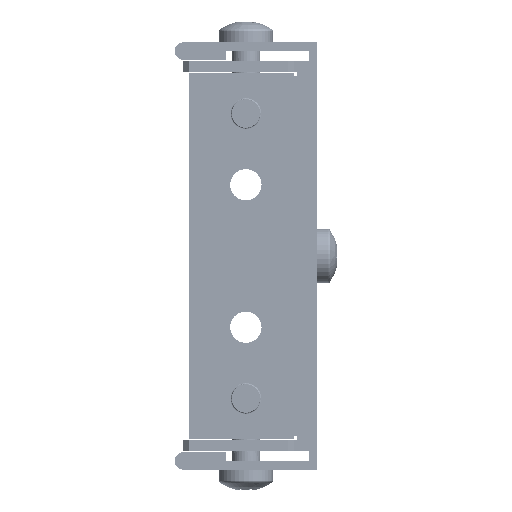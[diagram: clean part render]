
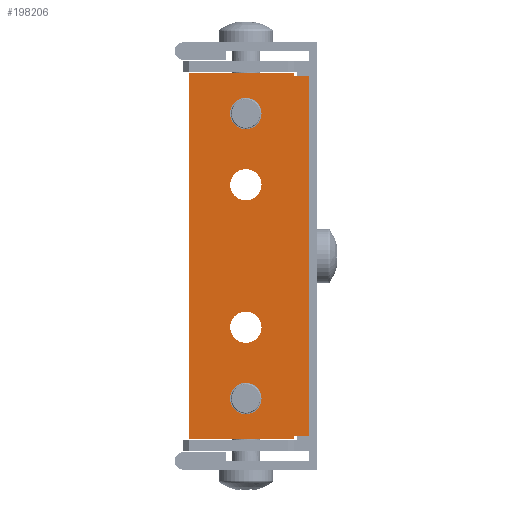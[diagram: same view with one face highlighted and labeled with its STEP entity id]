
A CAD part, front view. The second image highlights one B-rep face of the part: STEP entity #198206.
In plain terms, the highlighted planar face has unit normal (0, -1, 0).
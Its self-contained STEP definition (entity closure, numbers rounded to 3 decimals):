
#197672 = VERTEX_POINT('',#197673);
#197673 = CARTESIAN_POINT('',(-351.5,-650.,-5.85));
#197679 = EDGE_CURVE('',#197680,#197672,#197682,.T.);
#197680 = VERTEX_POINT('',#197681);
#197681 = CARTESIAN_POINT('',(-351.5,-650.,-69.15));
#197682 = LINE('',#197683,#197684);
#197683 = CARTESIAN_POINT('',(-351.5,-650.,-37.5));
#197684 = VECTOR('',#197685,1.);
#197685 = DIRECTION('',(0.,0.,1.));
#198188 = VERTEX_POINT('',#198189);
#198189 = CARTESIAN_POINT('',(-354.1,-650.,-5.85));
#198195 = EDGE_CURVE('',#198188,#197672,#198196,.T.);
#198196 = LINE('',#198197,#198198);
#198197 = CARTESIAN_POINT('',(-351.5,-650.,-5.85));
#198198 = VECTOR('',#198199,1.);
#198199 = DIRECTION('',(1.,0.,0.));
#198206 = ADVANCED_FACE('',(#198207,#198227,#198247,#198267,#198287),
  #198337,.T.);
#198207 = FACE_BOUND('',#198208,.T.);
#198208 = EDGE_LOOP('',(#198209,#198220));
#198209 = ORIENTED_EDGE('',*,*,#198210,.T.);
#198210 = EDGE_CURVE('',#198211,#198213,#198215,.T.);
#198211 = VERTEX_POINT('',#198212);
#198212 = CARTESIAN_POINT('',(-359.75,-650.,-25.));
#198213 = VERTEX_POINT('',#198214);
#198214 = CARTESIAN_POINT('',(-365.25,-650.,-25.));
#198215 = CIRCLE('',#198216,2.75);
#198216 = AXIS2_PLACEMENT_3D('',#198217,#198218,#198219);
#198217 = CARTESIAN_POINT('',(-362.5,-650.,-25.));
#198218 = DIRECTION('',(0.,1.,0.));
#198219 = DIRECTION('',(1.,0.,0.));
#198220 = ORIENTED_EDGE('',*,*,#198221,.T.);
#198221 = EDGE_CURVE('',#198213,#198211,#198222,.T.);
#198222 = CIRCLE('',#198223,2.75);
#198223 = AXIS2_PLACEMENT_3D('',#198224,#198225,#198226);
#198224 = CARTESIAN_POINT('',(-362.5,-650.,-25.));
#198225 = DIRECTION('',(0.,1.,0.));
#198226 = DIRECTION('',(1.,0.,0.));
#198227 = FACE_BOUND('',#198228,.T.);
#198228 = EDGE_LOOP('',(#198229,#198240));
#198229 = ORIENTED_EDGE('',*,*,#198230,.T.);
#198230 = EDGE_CURVE('',#198231,#198233,#198235,.T.);
#198231 = VERTEX_POINT('',#198232);
#198232 = CARTESIAN_POINT('',(-359.75,-650.,-62.5));
#198233 = VERTEX_POINT('',#198234);
#198234 = CARTESIAN_POINT('',(-365.25,-650.,-62.5));
#198235 = CIRCLE('',#198236,2.75);
#198236 = AXIS2_PLACEMENT_3D('',#198237,#198238,#198239);
#198237 = CARTESIAN_POINT('',(-362.5,-650.,-62.5));
#198238 = DIRECTION('',(0.,1.,0.));
#198239 = DIRECTION('',(-1.,0.,0.));
#198240 = ORIENTED_EDGE('',*,*,#198241,.T.);
#198241 = EDGE_CURVE('',#198233,#198231,#198242,.T.);
#198242 = CIRCLE('',#198243,2.75);
#198243 = AXIS2_PLACEMENT_3D('',#198244,#198245,#198246);
#198244 = CARTESIAN_POINT('',(-362.5,-650.,-62.5));
#198245 = DIRECTION('',(0.,1.,0.));
#198246 = DIRECTION('',(-1.,0.,0.));
#198247 = FACE_BOUND('',#198248,.T.);
#198248 = EDGE_LOOP('',(#198249,#198260));
#198249 = ORIENTED_EDGE('',*,*,#198250,.T.);
#198250 = EDGE_CURVE('',#198251,#198253,#198255,.T.);
#198251 = VERTEX_POINT('',#198252);
#198252 = CARTESIAN_POINT('',(-359.75,-650.,-50.));
#198253 = VERTEX_POINT('',#198254);
#198254 = CARTESIAN_POINT('',(-365.25,-650.,-50.));
#198255 = CIRCLE('',#198256,2.75);
#198256 = AXIS2_PLACEMENT_3D('',#198257,#198258,#198259);
#198257 = CARTESIAN_POINT('',(-362.5,-650.,-50.));
#198258 = DIRECTION('',(0.,1.,0.));
#198259 = DIRECTION('',(-1.,0.,0.));
#198260 = ORIENTED_EDGE('',*,*,#198261,.T.);
#198261 = EDGE_CURVE('',#198253,#198251,#198262,.T.);
#198262 = CIRCLE('',#198263,2.75);
#198263 = AXIS2_PLACEMENT_3D('',#198264,#198265,#198266);
#198264 = CARTESIAN_POINT('',(-362.5,-650.,-50.));
#198265 = DIRECTION('',(0.,1.,0.));
#198266 = DIRECTION('',(-1.,0.,0.));
#198267 = FACE_BOUND('',#198268,.T.);
#198268 = EDGE_LOOP('',(#198269,#198280));
#198269 = ORIENTED_EDGE('',*,*,#198270,.T.);
#198270 = EDGE_CURVE('',#198271,#198273,#198275,.T.);
#198271 = VERTEX_POINT('',#198272);
#198272 = CARTESIAN_POINT('',(-359.75,-650.,-12.5));
#198273 = VERTEX_POINT('',#198274);
#198274 = CARTESIAN_POINT('',(-365.25,-650.,-12.5));
#198275 = CIRCLE('',#198276,2.75);
#198276 = AXIS2_PLACEMENT_3D('',#198277,#198278,#198279);
#198277 = CARTESIAN_POINT('',(-362.5,-650.,-12.5));
#198278 = DIRECTION('',(0.,1.,0.));
#198279 = DIRECTION('',(1.,0.,0.));
#198280 = ORIENTED_EDGE('',*,*,#198281,.T.);
#198281 = EDGE_CURVE('',#198273,#198271,#198282,.T.);
#198282 = CIRCLE('',#198283,2.75);
#198283 = AXIS2_PLACEMENT_3D('',#198284,#198285,#198286);
#198284 = CARTESIAN_POINT('',(-362.5,-650.,-12.5));
#198285 = DIRECTION('',(0.,1.,0.));
#198286 = DIRECTION('',(1.,0.,0.));
#198287 = FACE_BOUND('',#198288,.T.);
#198288 = EDGE_LOOP('',(#198289,#198299,#198307,#198315,#198321,#198322,
    #198323,#198331));
#198289 = ORIENTED_EDGE('',*,*,#198290,.F.);
#198290 = EDGE_CURVE('',#198291,#198293,#198295,.T.);
#198291 = VERTEX_POINT('',#198292);
#198292 = CARTESIAN_POINT('',(-372.5,-650.,-69.65));
#198293 = VERTEX_POINT('',#198294);
#198294 = CARTESIAN_POINT('',(-372.5,-650.,-5.35));
#198295 = LINE('',#198296,#198297);
#198296 = CARTESIAN_POINT('',(-372.5,-650.,-5.85));
#198297 = VECTOR('',#198298,1.);
#198298 = DIRECTION('',(0.,0.,1.));
#198299 = ORIENTED_EDGE('',*,*,#198300,.F.);
#198300 = EDGE_CURVE('',#198301,#198291,#198303,.T.);
#198301 = VERTEX_POINT('',#198302);
#198302 = CARTESIAN_POINT('',(-354.1,-650.,-69.65));
#198303 = LINE('',#198304,#198305);
#198304 = CARTESIAN_POINT('',(-354.1,-650.,-69.65));
#198305 = VECTOR('',#198306,1.);
#198306 = DIRECTION('',(-1.,0.,0.));
#198307 = ORIENTED_EDGE('',*,*,#198308,.F.);
#198308 = EDGE_CURVE('',#198309,#198301,#198311,.T.);
#198309 = VERTEX_POINT('',#198310);
#198310 = CARTESIAN_POINT('',(-354.1,-650.,-69.15));
#198311 = LINE('',#198312,#198313);
#198312 = CARTESIAN_POINT('',(-354.1,-650.,-69.15));
#198313 = VECTOR('',#198314,1.);
#198314 = DIRECTION('',(0.,0.,-1.));
#198315 = ORIENTED_EDGE('',*,*,#198316,.T.);
#198316 = EDGE_CURVE('',#198309,#197680,#198317,.T.);
#198317 = LINE('',#198318,#198319);
#198318 = CARTESIAN_POINT('',(-351.5,-650.,-69.15));
#198319 = VECTOR('',#198320,1.);
#198320 = DIRECTION('',(1.,0.,0.));
#198321 = ORIENTED_EDGE('',*,*,#197679,.T.);
#198322 = ORIENTED_EDGE('',*,*,#198195,.F.);
#198323 = ORIENTED_EDGE('',*,*,#198324,.T.);
#198324 = EDGE_CURVE('',#198188,#198325,#198327,.T.);
#198325 = VERTEX_POINT('',#198326);
#198326 = CARTESIAN_POINT('',(-354.1,-650.,-5.35));
#198327 = LINE('',#198328,#198329);
#198328 = CARTESIAN_POINT('',(-354.1,-650.,-5.85));
#198329 = VECTOR('',#198330,1.);
#198330 = DIRECTION('',(0.,0.,1.));
#198331 = ORIENTED_EDGE('',*,*,#198332,.T.);
#198332 = EDGE_CURVE('',#198325,#198293,#198333,.T.);
#198333 = LINE('',#198334,#198335);
#198334 = CARTESIAN_POINT('',(-354.1,-650.,-5.35));
#198335 = VECTOR('',#198336,1.);
#198336 = DIRECTION('',(-1.,0.,0.));
#198337 = PLANE('',#198338);
#198338 = AXIS2_PLACEMENT_3D('',#198339,#198340,#198341);
#198339 = CARTESIAN_POINT('',(-351.5,-650.,-37.5));
#198340 = DIRECTION('',(0.,-1.,0.));
#198341 = DIRECTION('',(0.,0.,1.));
